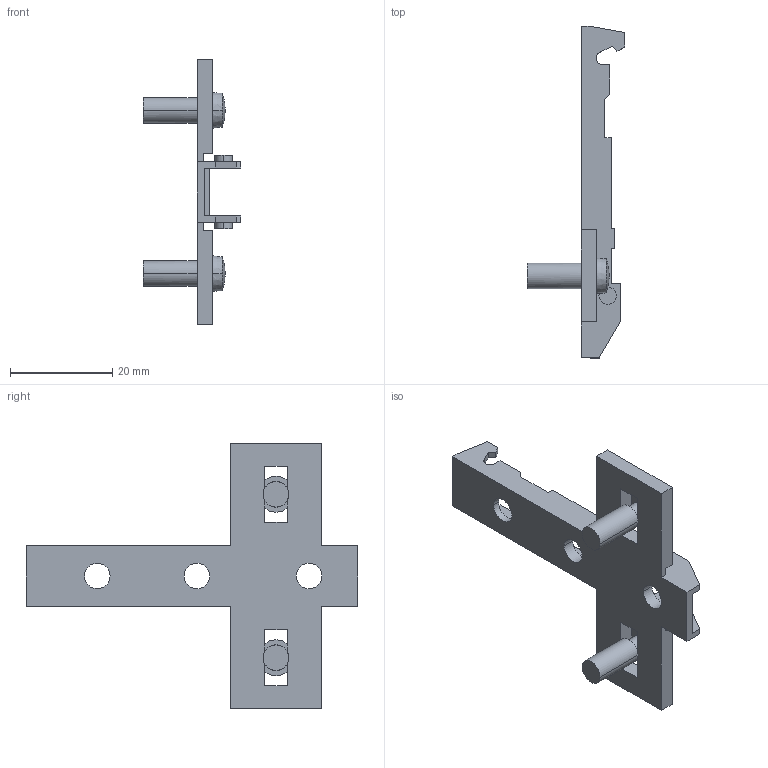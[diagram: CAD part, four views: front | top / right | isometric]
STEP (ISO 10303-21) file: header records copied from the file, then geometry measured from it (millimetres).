
FILE_DESCRIPTION (( 'STEP AP214' ), '1' );
FILE_NAME ('Eco Kreuzmontageplatte LR28_32_Dübel 5mm_lang_H-02.step', '2010-11-18T10:07:30', ( 'grass' ), ( '' ), 'SwSTEP 2.0', 'SolidWorks 2010', '' );
FILE_SCHEMA (( 'AUTOMOTIVE_DESIGN' ));
Length unit declared in the file: millimetre
Products named in the file (1): Eco Kreuzmontageplatte LR28_32_Dübel 5mm_lang_H-02
Bounding box: 19 x 65 x 52 mm (x, y, z)
Volume: 4380.6 mm3; surface area: 5361.1 mm2
Topology: 1 solids, 1 shells, 103 faces, 307 edges, 200 vertices
Faces by surface type: plane 75, cylinder 20, sphere 4, cone 4
Entity records: 3519 total; most frequent: ORIENTED_EDGE 614, CARTESIAN_POINT 611, DIRECTION 587, EDGE_CURVE 307, LINE 235, VECTOR 235, VERTEX_POINT 200, AXIS2_PLACEMENT_3D 176
